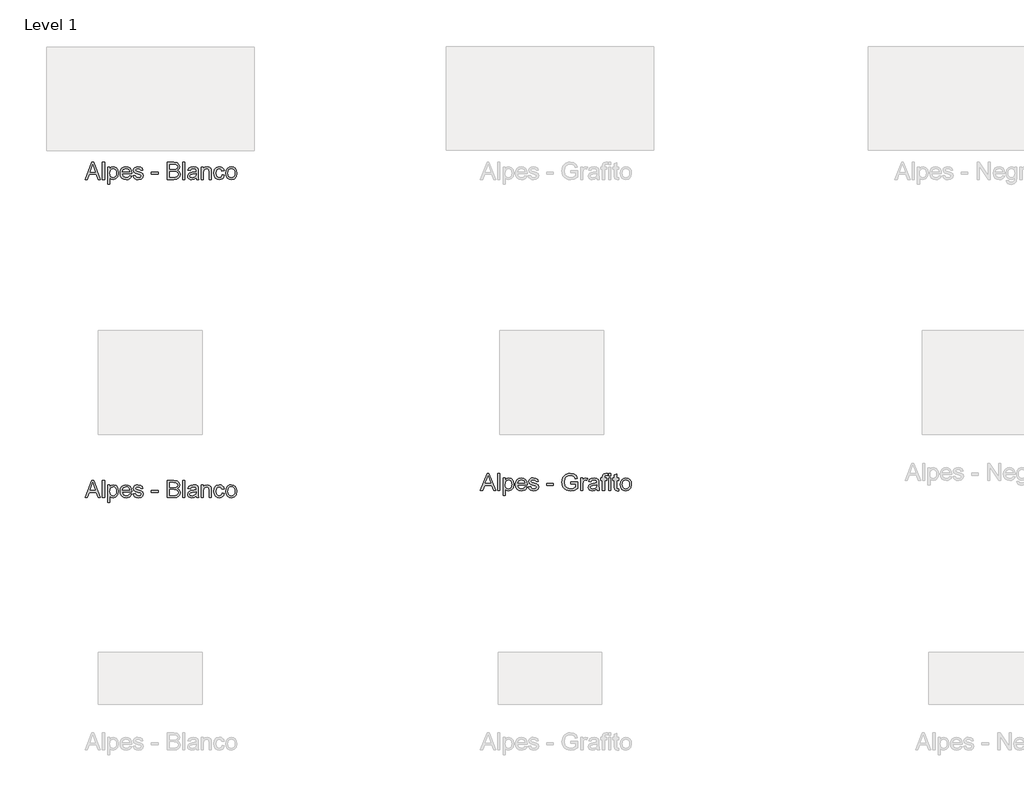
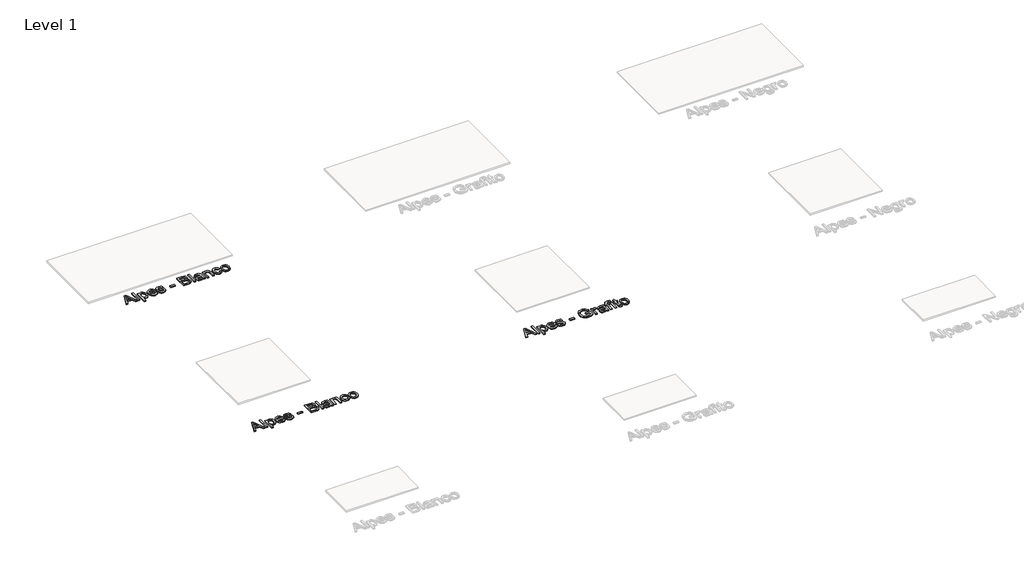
# One storey, part 2 of 3: 3 proxies.
"""IFC4 building model written with IfcOpenShell, lengths in millimetres."""

from ifc_helpers import new_model, si_unit, origin, origin_with_axes, place, context, project, spatial, polyline, outline, extrude, element, save

model = new_model("IFC4")

# Units and contexts
model_context = context("Model", 3, world=origin())
ifc_project = project(units=[si_unit("LENGTHUNIT", "METRE", prefix="MILLI")], contexts=[model_context])

# Site, building, storey
site = spatial("IfcSite", under=ifc_project)
building = spatial("IfcBuilding", under=site)
storey = spatial("IfcBuildingStorey", under=building, Name="Level 1", Elevation=0.0)

# Proxies
placement = place(None, origin())
element("IfcBuildingElementProxy", 1, Name="24\" Arial", ObjectType="24\" Arial", at=placement, inside=storey, context=model_context, shape_type="SweptSolid", body=[
    extrude(outline(polyline([(-4888.4306518, 3187.5589473), (-4849.1277672, 3286.0204858), (-4838.6469979, 3286.0204858), (-4799.3441133, 3187.5589473), (-4812.348921, 3187.5589473), (-4823.6229595, 3218.3281781), (-4864.1758441, 3218.3281781), (-4875.4258441, 3187.5589473), (-4888.4306518, 3187.5589473)]), holes=[polyline([(-4859.6566133, 3230.6358704), (-4828.1181518, 3230.6358704), (-4836.9883441, 3254.8426012), (-4843.8873826, 3273.7127935), (-4850.0171903, 3256.9579858), (-4859.6566133, 3230.6358704)])]), origin_with_axes(), (0.0, 0.0, 1.0), 8.0),
    extrude(outline(polyline([(-4787.7335364, 3187.5589473), (-4787.7335364, 3286.0204858), (-4775.4258441, 3286.0204858), (-4775.4258441, 3187.5589473), (-4787.7335364, 3187.5589473)])), origin_with_axes(), (0.0, 0.0, 1.0), 8.0),
    extrude(outline(polyline([(-4756.9643056, 3159.8666396), (-4756.9643056, 3259.8666396), (-4744.6566133, 3259.8666396), (-4744.6566133, 3247.7993319), (-4736.1469979, 3258.0036589), (-4724.6566133, 3261.4051012), (-4709.0556518, 3256.6454858), (-4698.8633441, 3243.2320242), (-4695.4258441, 3224.2656781), (-4699.3080556, 3204.3257742), (-4710.5820941, 3190.7440435), (-4726.1469979, 3186.0204858), (-4736.8561326, 3189.1815435), (-4744.6566133, 3197.1743319), (-4744.6566133, 3159.8666396), (-4756.9643056, 3159.8666396)]), holes=[polyline([(-4744.6566133, 3223.1358704), (-4743.3254835, 3212.1022165), (-4739.3320941, 3204.3858704), (-4733.4396662, 3199.8426012), (-4726.411421, 3198.3281781), (-4719.2689931, 3199.8966877), (-4713.2263249, 3204.6022165), (-4709.1067335, 3212.6010146), (-4707.7335364, 3224.0493319), (-4709.0736806, 3235.0228896), (-4713.0941133, 3242.8474089), (-4718.9775268, 3247.5349089), (-4725.9066133, 3249.0974089), (-4732.8627431, 3247.4357502), (-4738.9715172, 3242.4507742), (-4743.2353393, 3234.298731), (-4744.6566133, 3223.1358704)])]), origin_with_axes(), (0.0, 0.0, 1.0), 8.0),
    extrude(outline(polyline([(-4630.9546903, 3209.0974089), (-4618.8873826, 3207.5589473), (-4623.2353393, 3198.4663992), (-4630.1734403, 3191.6695242), (-4639.5454354, 3187.4327454), (-4651.1950749, 3186.0204858), (-4665.6361806, 3188.4573848), (-4676.7479595, 3195.7680819), (-4683.833296, 3207.4778175), (-4686.1950749, 3223.1118319), (-4683.8092576, 3239.2716877), (-4676.6518056, 3251.3570242), (-4665.6902672, 3258.8930819), (-4651.8921903, 3261.4051012), (-4638.5238008, 3258.8990915), (-4627.8417095, 3251.3810627), (-4620.8375028, 3239.3197646), (-4618.5027672, 3223.1839473), (-4618.5748826, 3219.8666396), (-4673.8873826, 3219.8666396), (-4671.7569739, 3210.6538992), (-4666.8080556, 3203.8810627), (-4650.9546903, 3198.3281781), (-4638.8873826, 3200.9002935), (-4630.9546903, 3209.0974089)]), holes=[polyline([(-4673.8873826, 3232.1743319), (-4630.8104595, 3232.1743319), (-4635.7383441, 3243.3281781), (-4642.9138249, 3247.6551012), (-4651.9402672, 3249.0974089), (-4667.0965172, 3244.4940435), (-4673.8873826, 3232.1743319)])]), origin_with_axes(), (0.0, 0.0, 1.0), 8.0),
    extrude(outline(polyline([(-4610.8104595, 3209.0974089), (-4598.5027672, 3210.6358704), (-4592.8056518, 3201.501255), (-4579.7527672, 3198.3281781), (-4567.2046903, 3201.2368319), (-4563.1181518, 3208.063755), (-4567.2287287, 3213.5926012), (-4579.8969979, 3217.1022165), (-4598.4306518, 3223.1238512), (-4606.5195941, 3230.1551012), (-4609.2719979, 3240.0829858), (-4607.0604595, 3249.2536589), (-4601.0268056, 3256.2608704), (-4593.2022864, 3259.9026973), (-4582.6133441, 3261.4051012), (-4567.6373826, 3258.9892358), (-4558.1181518, 3252.4507742), (-4553.8873826, 3241.4051012), (-4566.1950749, 3239.8666396), (-4570.8224787, 3246.657505), (-4581.6518056, 3249.0974089), (-4593.4306518, 3246.7656781), (-4596.9643056, 3241.3329858), (-4595.4979595, 3237.751255), (-4590.9066133, 3235.0349089), (-4580.3056518, 3232.4147165), (-4562.2407479, 3226.6214473), (-4553.8513249, 3220.0589473), (-4550.8104595, 3209.3618319), (-4554.380171, 3197.5829858), (-4564.6806518, 3189.0373127), (-4579.9210364, 3186.0204858), (-4592.3308922, 3187.4748127), (-4601.3873826, 3191.8377935), (-4607.4330556, 3199.0613512), (-4610.8104595, 3209.0974089)])), origin_with_axes(), (0.0, 0.0, 1.0), 8.0),
    extrude(outline(polyline([(-4504.6566133, 3216.7897165), (-4504.6566133, 3229.0974089), (-4466.1950749, 3229.0974089), (-4466.1950749, 3216.7897165), (-4504.6566133, 3216.7897165)])), origin_with_axes(), (0.0, 0.0, 1.0), 8.0),
    extrude(outline(polyline([(-4412.348921, 3187.5589473), (-4412.348921, 3286.0204858), (-4374.7768056, 3286.0204858), (-4356.3753633, 3283.1238512), (-4345.5099787, 3274.2176012), (-4341.5796903, 3261.6214473), (-4344.8849787, 3250.1190435), (-4354.8729595, 3241.4051012), (-4342.7455556, 3232.2224089), (-4338.5027672, 3216.9099089), (-4341.3994018, 3203.6767358), (-4348.5748826, 3194.2536589), (-4359.2840172, 3189.2536589), (-4375.0652672, 3187.5589473), (-4412.348921, 3187.5589473)]), holes=[polyline([(-4400.0412287, 3246.0204858), (-4377.5652672, 3246.0204858), (-4364.4402672, 3247.0781781), (-4356.5436326, 3251.6334665), (-4353.8873826, 3259.6502935), (-4356.3633441, 3267.6791396), (-4363.4546903, 3272.4267358), (-4379.2719979, 3273.7127935), (-4400.0412287, 3273.7127935), (-4400.0412287, 3246.0204858)]), polyline([(-4400.0412287, 3199.8666396), (-4374.8008441, 3199.8666396), (-4365.6662287, 3200.3474089), (-4357.9378633, 3203.0276973), (-4352.817671, 3208.4964473), (-4350.8104595, 3216.7897165), (-4353.1662287, 3226.3570242), (-4360.7984403, 3232.0661589), (-4376.0027672, 3233.7127935), (-4400.0412287, 3233.7127935), (-4400.0412287, 3199.8666396)])]), origin_with_axes(), (0.0, 0.0, 1.0), 8.0),
    extrude(outline(polyline([(-4323.1181518, 3187.5589473), (-4323.1181518, 3286.0204858), (-4310.8104595, 3286.0204858), (-4310.8104595, 3187.5589473), (-4323.1181518, 3187.5589473)])), origin_with_axes(), (0.0, 0.0, 1.0), 8.0),
    extrude(outline(polyline([(-4246.1950749, 3196.7897165), (-4258.130171, 3188.4483704), (-4271.3152672, 3186.0204858), (-4281.6007239, 3187.4808223), (-4289.1878633, 3191.8618319), (-4293.8663489, 3198.5144762), (-4295.4258441, 3206.7897165), (-4293.0700749, 3216.5252935), (-4286.880171, 3223.5926012), (-4278.2623826, 3227.6310627), (-4267.6133441, 3229.4820242), (-4246.2671903, 3233.7127935), (-4246.1950749, 3236.4531781), (-4249.5844979, 3245.5397165), (-4263.1902672, 3249.0974089), (-4275.6421903, 3246.7296204), (-4281.5796903, 3238.3281781), (-4293.8873826, 3239.8666396), (-4288.5628633, 3251.8858704), (-4277.8417095, 3258.9291396), (-4261.6037287, 3261.4051012), (-4246.6878633, 3259.2176012), (-4238.2623826, 3253.7248127), (-4234.4883441, 3245.3714473), (-4233.8873826, 3234.6022165), (-4233.8873826, 3219.2897165), (-4233.2623826, 3197.907505), (-4230.8104595, 3187.5589473), (-4243.1181518, 3187.5589473), (-4246.1950749, 3196.7897165)]), holes=[polyline([(-4246.1950749, 3221.4051012), (-4266.0508441, 3217.6310627), (-4276.6397864, 3215.6358704), (-4281.4354595, 3212.3906781), (-4283.1181518, 3207.6551012), (-4279.4522864, 3200.9964473), (-4268.6950749, 3198.3281781), (-4256.2431518, 3201.2728896), (-4248.2143056, 3208.4002935), (-4246.2671903, 3217.9195242), (-4246.1950749, 3221.4051012)])]), origin_with_axes(), (0.0, 0.0, 1.0), 8.0),
    extrude(outline(polyline([(-4216.9643056, 3187.5589473), (-4216.9643056, 3259.8666396), (-4204.6566133, 3259.8666396), (-4204.6566133, 3249.7704858), (-4195.2455556, 3258.4964473), (-4182.3969979, 3261.4051012), (-4170.7744018, 3259.0613512), (-4162.8417095, 3252.907505), (-4159.1518056, 3243.8570242), (-4158.5027672, 3231.9579858), (-4158.5027672, 3187.5589473), (-4170.8104595, 3187.5589473), (-4170.8104595, 3230.2993319), (-4172.2287287, 3241.188755), (-4177.2407479, 3246.9459665), (-4185.6902672, 3249.0974089), (-4199.0436326, 3244.2656781), (-4203.2533681, 3237.2644762), (-4204.6566133, 3225.9243319), (-4204.6566133, 3187.5589473), (-4216.9643056, 3187.5589473)])), origin_with_axes(), (0.0, 0.0, 1.0), 8.0),
    extrude(outline(polyline([(-4095.4258441, 3213.7127935), (-4083.1181518, 3212.1743319), (-4086.5496422, 3201.2278175), (-4092.9979595, 3192.9555819), (-4101.8561326, 3187.7542598), (-4112.5171903, 3186.0204858), (-4125.6091374, 3188.439356), (-4135.8465172, 3195.6959665), (-4142.4540893, 3207.4718079), (-4144.6566133, 3223.4483704), (-4140.8945941, 3243.8930819), (-4129.4282479, 3257.0301012), (-4112.6854595, 3261.4051012), (-4102.2858201, 3259.9026973), (-4093.9715172, 3255.3954858), (-4088.0069739, 3248.1238512), (-4084.6566133, 3238.3281781), (-4096.9643056, 3236.7897165), (-4102.6734403, 3246.0084665), (-4112.5893056, 3249.0974089), (-4120.5430316, 3247.5769762), (-4126.8561326, 3243.0156781), (-4130.9757239, 3235.1671204), (-4132.348921, 3223.7849089), (-4131.005772, 3212.2494521), (-4126.9763249, 3204.3738512), (-4120.7774066, 3199.8395964), (-4112.9258441, 3198.3281781), (-4101.3272864, 3202.1022165), (-4095.4258441, 3213.7127935)])), origin_with_axes(), (0.0, 0.0, 1.0), 8.0),
    extrude(outline(polyline([(-4075.4258441, 3223.7127935), (-4072.7635845, 3241.1466877), (-4064.7768056, 3253.4002935), (-4054.9090172, 3259.4038992), (-4043.0941133, 3261.4051012), (-4030.1644258, 3258.9682021), (-4019.8369018, 3251.657505), (-4013.0670701, 3240.0499329), (-4010.8104595, 3224.7224089), (-4014.8008441, 3202.8233704), (-4026.4234403, 3190.4315435), (-4043.0941133, 3186.0204858), (-4056.1800508, 3188.4483704), (-4066.4955556, 3195.7320242), (-4073.193272, 3207.5829858), (-4075.4258441, 3223.7127935)]), holes=[polyline([(-4063.1181518, 3223.7368319), (-4061.6938729, 3212.5980098), (-4057.4210364, 3204.6623127), (-4050.9907479, 3199.9117117), (-4043.0941133, 3198.3281781), (-4035.2335364, 3199.9207262), (-4028.8152672, 3204.6983704), (-4024.5424306, 3212.7392358), (-4023.1181518, 3224.1214473), (-4024.5514451, 3234.9357502), (-4028.8513249, 3242.7632742), (-4035.2786085, 3247.5138752), (-4043.0941133, 3249.0974089), (-4050.9907479, 3247.5198848), (-4057.4210364, 3242.7873127), (-4061.6938729, 3234.8696444), (-4063.1181518, 3223.7368319)])]), origin_with_axes(), (0.0, 0.0, 1.0), 8.0),
])
element("IfcBuildingElementProxy", 2, Name="24\" Arial", ObjectType="24\" Arial", at=placement, inside=storey, context=model_context, shape_type="SweptSolid", body=[
    extrude(outline(polyline([(-4888.4306518, 1347.5589473), (-4849.1277672, 1446.0204858), (-4838.6469979, 1446.0204858), (-4799.3441133, 1347.5589473), (-4812.348921, 1347.5589473), (-4823.6229595, 1378.3281781), (-4864.1758441, 1378.3281781), (-4875.4258441, 1347.5589473), (-4888.4306518, 1347.5589473)]), holes=[polyline([(-4859.6566133, 1390.6358704), (-4828.1181518, 1390.6358704), (-4836.9883441, 1414.8426012), (-4843.8873826, 1433.7127935), (-4850.0171903, 1416.9579858), (-4859.6566133, 1390.6358704)])]), origin_with_axes(), (0.0, 0.0, 1.0), 8.0),
    extrude(outline(polyline([(-4787.7335364, 1347.5589473), (-4787.7335364, 1446.0204858), (-4775.4258441, 1446.0204858), (-4775.4258441, 1347.5589473), (-4787.7335364, 1347.5589473)])), origin_with_axes(), (0.0, 0.0, 1.0), 8.0),
    extrude(outline(polyline([(-4756.9643056, 1319.8666396), (-4756.9643056, 1419.8666396), (-4744.6566133, 1419.8666396), (-4744.6566133, 1407.7993319), (-4736.1469979, 1418.0036589), (-4724.6566133, 1421.4051012), (-4709.0556518, 1416.6454858), (-4698.8633441, 1403.2320242), (-4695.4258441, 1384.2656781), (-4699.3080556, 1364.3257742), (-4710.5820941, 1350.7440435), (-4726.1469979, 1346.0204858), (-4736.8561326, 1349.1815435), (-4744.6566133, 1357.1743319), (-4744.6566133, 1319.8666396), (-4756.9643056, 1319.8666396)]), holes=[polyline([(-4744.6566133, 1383.1358704), (-4743.3254835, 1372.1022165), (-4739.3320941, 1364.3858704), (-4733.4396662, 1359.8426012), (-4726.411421, 1358.3281781), (-4719.2689931, 1359.8966877), (-4713.2263249, 1364.6022165), (-4709.1067335, 1372.6010146), (-4707.7335364, 1384.0493319), (-4709.0736806, 1395.0228896), (-4713.0941133, 1402.8474089), (-4718.9775268, 1407.5349089), (-4725.9066133, 1409.0974089), (-4732.8627431, 1407.4357502), (-4738.9715172, 1402.4507742), (-4743.2353393, 1394.298731), (-4744.6566133, 1383.1358704)])]), origin_with_axes(), (0.0, 0.0, 1.0), 8.0),
    extrude(outline(polyline([(-4630.9546903, 1369.0974089), (-4618.8873826, 1367.5589473), (-4623.2353393, 1358.4663992), (-4630.1734403, 1351.6695242), (-4639.5454354, 1347.4327454), (-4651.1950749, 1346.0204858), (-4665.6361806, 1348.4573848), (-4676.7479595, 1355.7680819), (-4683.833296, 1367.4778175), (-4686.1950749, 1383.1118319), (-4683.8092576, 1399.2716877), (-4676.6518056, 1411.3570242), (-4665.6902672, 1418.8930819), (-4651.8921903, 1421.4051012), (-4638.5238008, 1418.8990915), (-4627.8417095, 1411.3810627), (-4620.8375028, 1399.3197646), (-4618.5027672, 1383.1839473), (-4618.5748826, 1379.8666396), (-4673.8873826, 1379.8666396), (-4671.7569739, 1370.6538992), (-4666.8080556, 1363.8810627), (-4650.9546903, 1358.3281781), (-4638.8873826, 1360.9002935), (-4630.9546903, 1369.0974089)]), holes=[polyline([(-4673.8873826, 1392.1743319), (-4630.8104595, 1392.1743319), (-4635.7383441, 1403.3281781), (-4642.9138249, 1407.6551012), (-4651.9402672, 1409.0974089), (-4667.0965172, 1404.4940435), (-4673.8873826, 1392.1743319)])]), origin_with_axes(), (0.0, 0.0, 1.0), 8.0),
    extrude(outline(polyline([(-4610.8104595, 1369.0974089), (-4598.5027672, 1370.6358704), (-4592.8056518, 1361.501255), (-4579.7527672, 1358.3281781), (-4567.2046903, 1361.2368319), (-4563.1181518, 1368.063755), (-4567.2287287, 1373.5926012), (-4579.8969979, 1377.1022165), (-4598.4306518, 1383.1238512), (-4606.5195941, 1390.1551012), (-4609.2719979, 1400.0829858), (-4607.0604595, 1409.2536589), (-4601.0268056, 1416.2608704), (-4593.2022864, 1419.9026973), (-4582.6133441, 1421.4051012), (-4567.6373826, 1418.9892358), (-4558.1181518, 1412.4507742), (-4553.8873826, 1401.4051012), (-4566.1950749, 1399.8666396), (-4570.8224787, 1406.657505), (-4581.6518056, 1409.0974089), (-4593.4306518, 1406.7656781), (-4596.9643056, 1401.3329858), (-4595.4979595, 1397.751255), (-4590.9066133, 1395.0349089), (-4580.3056518, 1392.4147165), (-4562.2407479, 1386.6214473), (-4553.8513249, 1380.0589473), (-4550.8104595, 1369.3618319), (-4554.380171, 1357.5829858), (-4564.6806518, 1349.0373127), (-4579.9210364, 1346.0204858), (-4592.3308922, 1347.4748127), (-4601.3873826, 1351.8377935), (-4607.4330556, 1359.0613512), (-4610.8104595, 1369.0974089)])), origin_with_axes(), (0.0, 0.0, 1.0), 8.0),
    extrude(outline(polyline([(-4504.6566133, 1376.7897165), (-4504.6566133, 1389.0974089), (-4466.1950749, 1389.0974089), (-4466.1950749, 1376.7897165), (-4504.6566133, 1376.7897165)])), origin_with_axes(), (0.0, 0.0, 1.0), 8.0),
    extrude(outline(polyline([(-4412.348921, 1347.5589473), (-4412.348921, 1446.0204858), (-4374.7768056, 1446.0204858), (-4356.3753633, 1443.1238512), (-4345.5099787, 1434.2176012), (-4341.5796903, 1421.6214473), (-4344.8849787, 1410.1190435), (-4354.8729595, 1401.4051012), (-4342.7455556, 1392.2224089), (-4338.5027672, 1376.9099089), (-4341.3994018, 1363.6767358), (-4348.5748826, 1354.2536589), (-4359.2840172, 1349.2536589), (-4375.0652672, 1347.5589473), (-4412.348921, 1347.5589473)]), holes=[polyline([(-4400.0412287, 1406.0204858), (-4377.5652672, 1406.0204858), (-4364.4402672, 1407.0781781), (-4356.5436326, 1411.6334665), (-4353.8873826, 1419.6502935), (-4356.3633441, 1427.6791396), (-4363.4546903, 1432.4267358), (-4379.2719979, 1433.7127935), (-4400.0412287, 1433.7127935), (-4400.0412287, 1406.0204858)]), polyline([(-4400.0412287, 1359.8666396), (-4374.8008441, 1359.8666396), (-4365.6662287, 1360.3474089), (-4357.9378633, 1363.0276973), (-4352.817671, 1368.4964473), (-4350.8104595, 1376.7897165), (-4353.1662287, 1386.3570242), (-4360.7984403, 1392.0661589), (-4376.0027672, 1393.7127935), (-4400.0412287, 1393.7127935), (-4400.0412287, 1359.8666396)])]), origin_with_axes(), (0.0, 0.0, 1.0), 8.0),
    extrude(outline(polyline([(-4323.1181518, 1347.5589473), (-4323.1181518, 1446.0204858), (-4310.8104595, 1446.0204858), (-4310.8104595, 1347.5589473), (-4323.1181518, 1347.5589473)])), origin_with_axes(), (0.0, 0.0, 1.0), 8.0),
    extrude(outline(polyline([(-4246.1950749, 1356.7897165), (-4258.130171, 1348.4483704), (-4271.3152672, 1346.0204858), (-4281.6007239, 1347.4808223), (-4289.1878633, 1351.8618319), (-4293.8663489, 1358.5144762), (-4295.4258441, 1366.7897165), (-4293.0700749, 1376.5252935), (-4286.880171, 1383.5926012), (-4278.2623826, 1387.6310627), (-4267.6133441, 1389.4820242), (-4246.2671903, 1393.7127935), (-4246.1950749, 1396.4531781), (-4249.5844979, 1405.5397165), (-4263.1902672, 1409.0974089), (-4275.6421903, 1406.7296204), (-4281.5796903, 1398.3281781), (-4293.8873826, 1399.8666396), (-4288.5628633, 1411.8858704), (-4277.8417095, 1418.9291396), (-4261.6037287, 1421.4051012), (-4246.6878633, 1419.2176012), (-4238.2623826, 1413.7248127), (-4234.4883441, 1405.3714473), (-4233.8873826, 1394.6022165), (-4233.8873826, 1379.2897165), (-4233.2623826, 1357.907505), (-4230.8104595, 1347.5589473), (-4243.1181518, 1347.5589473), (-4246.1950749, 1356.7897165)]), holes=[polyline([(-4246.1950749, 1381.4051012), (-4266.0508441, 1377.6310627), (-4276.6397864, 1375.6358704), (-4281.4354595, 1372.3906781), (-4283.1181518, 1367.6551012), (-4279.4522864, 1360.9964473), (-4268.6950749, 1358.3281781), (-4256.2431518, 1361.2728896), (-4248.2143056, 1368.4002935), (-4246.2671903, 1377.9195242), (-4246.1950749, 1381.4051012)])]), origin_with_axes(), (0.0, 0.0, 1.0), 8.0),
    extrude(outline(polyline([(-4216.9643056, 1347.5589473), (-4216.9643056, 1419.8666396), (-4204.6566133, 1419.8666396), (-4204.6566133, 1409.7704858), (-4195.2455556, 1418.4964473), (-4182.3969979, 1421.4051012), (-4170.7744018, 1419.0613512), (-4162.8417095, 1412.907505), (-4159.1518056, 1403.8570242), (-4158.5027672, 1391.9579858), (-4158.5027672, 1347.5589473), (-4170.8104595, 1347.5589473), (-4170.8104595, 1390.2993319), (-4172.2287287, 1401.188755), (-4177.2407479, 1406.9459665), (-4185.6902672, 1409.0974089), (-4199.0436326, 1404.2656781), (-4203.2533681, 1397.2644762), (-4204.6566133, 1385.9243319), (-4204.6566133, 1347.5589473), (-4216.9643056, 1347.5589473)])), origin_with_axes(), (0.0, 0.0, 1.0), 8.0),
    extrude(outline(polyline([(-4095.4258441, 1373.7127935), (-4083.1181518, 1372.1743319), (-4086.5496422, 1361.2278175), (-4092.9979595, 1352.9555819), (-4101.8561326, 1347.7542598), (-4112.5171903, 1346.0204858), (-4125.6091374, 1348.439356), (-4135.8465172, 1355.6959665), (-4142.4540893, 1367.4718079), (-4144.6566133, 1383.4483704), (-4140.8945941, 1403.8930819), (-4129.4282479, 1417.0301012), (-4112.6854595, 1421.4051012), (-4102.2858201, 1419.9026973), (-4093.9715172, 1415.3954858), (-4088.0069739, 1408.1238512), (-4084.6566133, 1398.3281781), (-4096.9643056, 1396.7897165), (-4102.6734403, 1406.0084665), (-4112.5893056, 1409.0974089), (-4120.5430316, 1407.5769762), (-4126.8561326, 1403.0156781), (-4130.9757239, 1395.1671204), (-4132.348921, 1383.7849089), (-4131.005772, 1372.2494521), (-4126.9763249, 1364.3738512), (-4120.7774066, 1359.8395964), (-4112.9258441, 1358.3281781), (-4101.3272864, 1362.1022165), (-4095.4258441, 1373.7127935)])), origin_with_axes(), (0.0, 0.0, 1.0), 8.0),
    extrude(outline(polyline([(-4075.4258441, 1383.7127935), (-4072.7635845, 1401.1466877), (-4064.7768056, 1413.4002935), (-4054.9090172, 1419.4038992), (-4043.0941133, 1421.4051012), (-4030.1644258, 1418.9682021), (-4019.8369018, 1411.657505), (-4013.0670701, 1400.0499329), (-4010.8104595, 1384.7224089), (-4014.8008441, 1362.8233704), (-4026.4234403, 1350.4315435), (-4043.0941133, 1346.0204858), (-4056.1800508, 1348.4483704), (-4066.4955556, 1355.7320242), (-4073.193272, 1367.5829858), (-4075.4258441, 1383.7127935)]), holes=[polyline([(-4063.1181518, 1383.7368319), (-4061.6938729, 1372.5980098), (-4057.4210364, 1364.6623127), (-4050.9907479, 1359.9117117), (-4043.0941133, 1358.3281781), (-4035.2335364, 1359.9207262), (-4028.8152672, 1364.6983704), (-4024.5424306, 1372.7392358), (-4023.1181518, 1384.1214473), (-4024.5514451, 1394.9357502), (-4028.8513249, 1402.7632742), (-4035.2786085, 1407.5138752), (-4043.0941133, 1409.0974089), (-4050.9907479, 1407.5198848), (-4057.4210364, 1402.7873127), (-4061.6938729, 1394.8696444), (-4063.1181518, 1383.7368319)])]), origin_with_axes(), (0.0, 0.0, 1.0), 8.0),
])
element("IfcBuildingElementProxy", 3, Name="24\" Arial", ObjectType="24\" Arial", at=placement, inside=storey, context=model_context, shape_type="SweptSolid", body=[
    extrude(outline(polyline([(-2603.4306518, 1387.5589473), (-2564.1277672, 1486.0204858), (-2553.6469979, 1486.0204858), (-2514.3441133, 1387.5589473), (-2527.348921, 1387.5589473), (-2538.6229595, 1418.3281781), (-2579.1758441, 1418.3281781), (-2590.4258441, 1387.5589473), (-2603.4306518, 1387.5589473)]), holes=[polyline([(-2574.6566133, 1430.6358704), (-2543.1181518, 1430.6358704), (-2551.9883441, 1454.8426012), (-2558.8873826, 1473.7127935), (-2565.0171903, 1456.9579858), (-2574.6566133, 1430.6358704)])]), origin_with_axes(), (0.0, 0.0, 1.0), 8.0),
    extrude(outline(polyline([(-2502.7335364, 1387.5589473), (-2502.7335364, 1486.0204858), (-2490.4258441, 1486.0204858), (-2490.4258441, 1387.5589473), (-2502.7335364, 1387.5589473)])), origin_with_axes(), (0.0, 0.0, 1.0), 8.0),
    extrude(outline(polyline([(-2471.9643056, 1359.8666396), (-2471.9643056, 1459.8666396), (-2459.6566133, 1459.8666396), (-2459.6566133, 1447.7993319), (-2451.1469979, 1458.0036589), (-2439.6566133, 1461.4051012), (-2424.0556518, 1456.6454858), (-2413.8633441, 1443.2320242), (-2410.4258441, 1424.2656781), (-2414.3080556, 1404.3257742), (-2425.5820941, 1390.7440435), (-2441.1469979, 1386.0204858), (-2451.8561326, 1389.1815435), (-2459.6566133, 1397.1743319), (-2459.6566133, 1359.8666396), (-2471.9643056, 1359.8666396)]), holes=[polyline([(-2459.6566133, 1423.1358704), (-2458.3254835, 1412.1022165), (-2454.3320941, 1404.3858704), (-2448.4396662, 1399.8426012), (-2441.411421, 1398.3281781), (-2434.2689931, 1399.8966877), (-2428.2263249, 1404.6022165), (-2424.1067335, 1412.6010146), (-2422.7335364, 1424.0493319), (-2424.0736806, 1435.0228896), (-2428.0941133, 1442.8474089), (-2433.9775268, 1447.5349089), (-2440.9066133, 1449.0974089), (-2447.8627431, 1447.4357502), (-2453.9715172, 1442.4507742), (-2458.2353393, 1434.298731), (-2459.6566133, 1423.1358704)])]), origin_with_axes(), (0.0, 0.0, 1.0), 8.0),
    extrude(outline(polyline([(-2345.9546903, 1409.0974089), (-2333.8873826, 1407.5589473), (-2338.2353393, 1398.4663992), (-2345.1734403, 1391.6695242), (-2354.5454354, 1387.4327454), (-2366.1950749, 1386.0204858), (-2380.6361806, 1388.4573848), (-2391.7479595, 1395.7680819), (-2398.833296, 1407.4778175), (-2401.1950749, 1423.1118319), (-2398.8092576, 1439.2716877), (-2391.6518056, 1451.3570242), (-2380.6902672, 1458.8930819), (-2366.8921903, 1461.4051012), (-2353.5238008, 1458.8990915), (-2342.8417095, 1451.3810627), (-2335.8375028, 1439.3197646), (-2333.5027672, 1423.1839473), (-2333.5748826, 1419.8666396), (-2388.8873826, 1419.8666396), (-2386.7569739, 1410.6538992), (-2381.8080556, 1403.8810627), (-2365.9546903, 1398.3281781), (-2353.8873826, 1400.9002935), (-2345.9546903, 1409.0974089)]), holes=[polyline([(-2388.8873826, 1432.1743319), (-2345.8104595, 1432.1743319), (-2350.7383441, 1443.3281781), (-2357.9138249, 1447.6551012), (-2366.9402672, 1449.0974089), (-2382.0965172, 1444.4940435), (-2388.8873826, 1432.1743319)])]), origin_with_axes(), (0.0, 0.0, 1.0), 8.0),
    extrude(outline(polyline([(-2325.8104595, 1409.0974089), (-2313.5027672, 1410.6358704), (-2307.8056518, 1401.501255), (-2294.7527672, 1398.3281781), (-2282.2046903, 1401.2368319), (-2278.1181518, 1408.063755), (-2282.2287287, 1413.5926012), (-2294.8969979, 1417.1022165), (-2313.4306518, 1423.1238512), (-2321.5195941, 1430.1551012), (-2324.2719979, 1440.0829858), (-2322.0604595, 1449.2536589), (-2316.0268056, 1456.2608704), (-2308.2022864, 1459.9026973), (-2297.6133441, 1461.4051012), (-2282.6373826, 1458.9892358), (-2273.1181518, 1452.4507742), (-2268.8873826, 1441.4051012), (-2281.1950749, 1439.8666396), (-2285.8224787, 1446.657505), (-2296.6518056, 1449.0974089), (-2308.4306518, 1446.7656781), (-2311.9643056, 1441.3329858), (-2310.4979595, 1437.751255), (-2305.9066133, 1435.0349089), (-2295.3056518, 1432.4147165), (-2277.2407479, 1426.6214473), (-2268.8513249, 1420.0589473), (-2265.8104595, 1409.3618319), (-2269.380171, 1397.5829858), (-2279.6806518, 1389.0373127), (-2294.9210364, 1386.0204858), (-2307.3308922, 1387.4748127), (-2316.3873826, 1391.8377935), (-2322.4330556, 1399.0613512), (-2325.8104595, 1409.0974089)])), origin_with_axes(), (0.0, 0.0, 1.0), 8.0),
    extrude(outline(polyline([(-2219.6566133, 1416.7897165), (-2219.6566133, 1429.0974089), (-2181.1950749, 1429.0974089), (-2181.1950749, 1416.7897165), (-2219.6566133, 1416.7897165)])), origin_with_axes(), (0.0, 0.0, 1.0), 8.0),
    extrude(outline(polyline([(-2081.1950749, 1426.0204858), (-2081.1950749, 1438.3281781), (-2041.1950749, 1438.3281781), (-2041.1950749, 1401.5252935), (-2060.942671, 1389.9147165), (-2081.8200749, 1386.0204858), (-2095.6271662, 1387.5679617), (-2108.1061326, 1392.2103896), (-2118.4727191, 1399.7855098), (-2125.942671, 1410.1310627), (-2130.458897, 1422.5409185), (-2131.9643056, 1436.3089473), (-2125.9667095, 1463.0757742), (-2118.6560124, 1473.8960867), (-2108.7191133, 1481.5252935), (-2096.6157479, 1486.0505339), (-2082.8056518, 1487.5589473), (-2063.5508441, 1484.0613512), (-2050.0532479, 1474.3257742), (-2042.6133441, 1458.0397165), (-2053.9594979, 1454.8426012), (-2059.5724787, 1466.2248127), (-2069.1638249, 1472.7873127), (-2082.9979595, 1475.251255), (-2098.755171, 1472.595005), (-2109.4763249, 1465.6238512), (-2115.8104595, 1456.1406781), (-2119.6566133, 1436.813755), (-2115.0292095, 1415.3594281), (-2101.567671, 1402.5228896), (-2082.8056518, 1398.3281781), (-2065.9667095, 1401.4892358), (-2053.5027672, 1408.2320242), (-2053.5027672, 1426.0204858), (-2081.1950749, 1426.0204858)])), origin_with_axes(), (0.0, 0.0, 1.0), 8.0),
    extrude(outline(polyline([(-2022.7335364, 1387.5589473), (-2022.7335364, 1459.8666396), (-2011.9643056, 1459.8666396), (-2011.9643056, 1449.1695242), (-2004.3200749, 1459.0252935), (-1996.6277672, 1461.4051012), (-1984.2719979, 1457.6070242), (-1988.3825749, 1446.5733704), (-1997.036421, 1449.0974089), (-2003.9955556, 1446.6695242), (-2008.4306518, 1439.938755), (-2010.4258441, 1425.563755), (-2010.4258441, 1387.5589473), (-2022.7335364, 1387.5589473)])), origin_with_axes(), (0.0, 0.0, 1.0), 8.0),
    extrude(outline(polyline([(-1930.4258441, 1396.7897165), (-1942.3609403, 1388.4483704), (-1955.5460364, 1386.0204858), (-1965.8314931, 1387.4808223), (-1973.4186326, 1391.8618319), (-1978.0971181, 1398.5144762), (-1979.6566133, 1406.7897165), (-1977.3008441, 1416.5252935), (-1971.1109403, 1423.5926012), (-1962.4931518, 1427.6310627), (-1951.8441133, 1429.4820242), (-1930.4979595, 1433.7127935), (-1930.4258441, 1436.4531781), (-1933.8152672, 1445.5397165), (-1947.4210364, 1449.0974089), (-1959.8729595, 1446.7296204), (-1965.8104595, 1438.3281781), (-1978.1181518, 1439.8666396), (-1972.7936326, 1451.8858704), (-1962.0724787, 1458.9291396), (-1945.8344979, 1461.4051012), (-1930.9186326, 1459.2176012), (-1922.4931518, 1453.7248127), (-1918.7191133, 1445.3714473), (-1918.1181518, 1434.6022165), (-1918.1181518, 1419.2897165), (-1917.4931518, 1397.907505), (-1915.0412287, 1387.5589473), (-1927.348921, 1387.5589473), (-1930.4258441, 1396.7897165)]), holes=[polyline([(-1930.4258441, 1421.4051012), (-1950.2816133, 1417.6310627), (-1960.8705556, 1415.6358704), (-1965.6662287, 1412.3906781), (-1967.348921, 1407.6551012), (-1963.6830556, 1400.9964473), (-1952.9258441, 1398.3281781), (-1940.473921, 1401.2728896), (-1932.4450749, 1408.4002935), (-1930.4979595, 1417.9195242), (-1930.4258441, 1421.4051012)])]), origin_with_axes(), (0.0, 0.0, 1.0), 8.0),
    extrude(outline(polyline([(-1898.1181518, 1387.5589473), (-1898.1181518, 1447.5589473), (-1908.8873826, 1447.5589473), (-1908.8873826, 1459.8666396), (-1898.1181518, 1459.8666396), (-1898.1181518, 1467.1502935), (-1896.8200749, 1477.4147165), (-1890.5219979, 1484.7464473), (-1878.1181518, 1487.5589473), (-1866.8921903, 1486.2127935), (-1868.6950749, 1474.6743319), (-1875.786421, 1475.251255), (-1883.5388249, 1473.2079858), (-1885.8104595, 1465.5877935), (-1885.8104595, 1459.8666396), (-1871.9643056, 1459.8666396), (-1871.9643056, 1447.5589473), (-1885.8104595, 1447.5589473), (-1885.8104595, 1387.5589473), (-1898.1181518, 1387.5589473)])), origin_with_axes(), (0.0, 0.0, 1.0), 8.0),
    extrude(outline(polyline([(-1861.1950749, 1473.7127935), (-1861.1950749, 1486.0204858), (-1848.8873826, 1486.0204858), (-1848.8873826, 1473.7127935), (-1861.1950749, 1473.7127935)])), origin_with_axes(), (0.0, 0.0, 1.0), 8.0),
    extrude(outline(polyline([(-1861.1950749, 1387.5589473), (-1861.1950749, 1459.8666396), (-1848.8873826, 1459.8666396), (-1848.8873826, 1387.5589473), (-1861.1950749, 1387.5589473)])), origin_with_axes(), (0.0, 0.0, 1.0), 8.0),
    extrude(outline(polyline([(-1804.2719979, 1397.8233704), (-1802.7335364, 1387.1983704), (-1811.9402672, 1386.0204858), (-1822.2527672, 1388.063755), (-1827.3969979, 1393.4243319), (-1828.8873826, 1407.3906781), (-1828.8873826, 1447.5589473), (-1838.1181518, 1447.5589473), (-1838.1181518, 1459.8666396), (-1828.8873826, 1459.8666396), (-1828.8873826, 1477.438755), (-1816.5796903, 1484.6743319), (-1816.5796903, 1459.8666396), (-1804.2719979, 1459.8666396), (-1804.2719979, 1447.5589473), (-1816.5796903, 1447.5589473), (-1816.5796903, 1407.751255), (-1815.9306518, 1401.4051012), (-1813.8272864, 1399.157505), (-1809.6325749, 1398.3281781), (-1804.2719979, 1397.8233704)])), origin_with_axes(), (0.0, 0.0, 1.0), 8.0),
    extrude(outline(polyline([(-1795.0412287, 1423.7127935), (-1792.3789691, 1441.1466877), (-1784.3921903, 1453.4002935), (-1774.5244018, 1459.4038992), (-1762.7094979, 1461.4051012), (-1749.7798104, 1458.9682021), (-1739.4522864, 1451.657505), (-1732.6824547, 1440.0499329), (-1730.4258441, 1424.7224089), (-1734.4162287, 1402.8233704), (-1746.0388249, 1390.4315435), (-1762.7094979, 1386.0204858), (-1775.7954354, 1388.4483704), (-1786.1109403, 1395.7320242), (-1792.8086566, 1407.5829858), (-1795.0412287, 1423.7127935)]), holes=[polyline([(-1782.7335364, 1423.7368319), (-1781.3092576, 1412.5980098), (-1777.036421, 1404.6623127), (-1770.6061326, 1399.9117117), (-1762.7094979, 1398.3281781), (-1754.848921, 1399.9207262), (-1748.4306518, 1404.6983704), (-1744.1578153, 1412.7392358), (-1742.7335364, 1424.1214473), (-1744.1668297, 1434.9357502), (-1748.4667095, 1442.7632742), (-1754.8939931, 1447.5138752), (-1762.7094979, 1449.0974089), (-1770.6061326, 1447.5198848), (-1777.036421, 1442.7873127), (-1781.3092576, 1434.8696444), (-1782.7335364, 1423.7368319)])]), origin_with_axes(), (0.0, 0.0, 1.0), 8.0),
])

save(model, "model.ifc")
